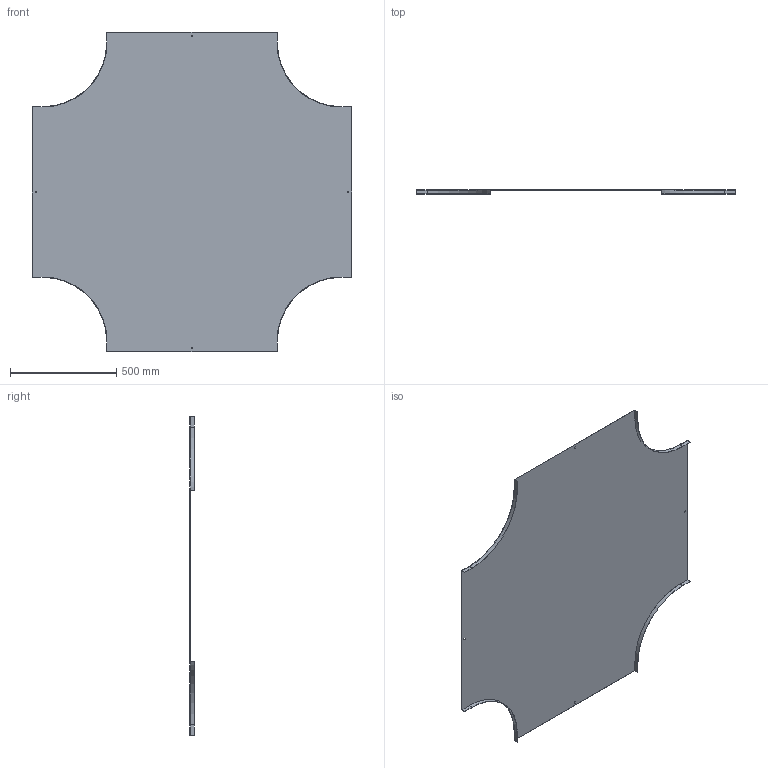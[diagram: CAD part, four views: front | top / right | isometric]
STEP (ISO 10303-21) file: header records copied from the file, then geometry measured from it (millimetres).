
FILE_DESCRIPTION (( 'STEP AP214' ), '1' );
FILE_NAME ('B2_17N3R800.step', '2025-02-21T12:09:01', ( '' ), ( '' ), 'SwSTEP 2.0', 'SolidWorks 2023', '' );
FILE_SCHEMA (( 'AUTOMOTIVE_DESIGN' ));
Length unit declared in the file: millimetre
Products named in the file (1): B2_17N3R800
Bounding box: 1500 x 20 x 1500 mm (x, y, z)
Volume: 2823941.3 mm3; surface area: 3773894.3 mm2
Topology: 1 solids, 1 shells, 50 faces, 144 edges, 96 vertices
Faces by surface type: plane 42, cylinder 8
Entity records: 1663 total; most frequent: CARTESIAN_POINT 291, ORIENTED_EDGE 288, DIRECTION 262, EDGE_CURVE 144, VECTOR 128, LINE 128, VERTEX_POINT 96, AXIS2_PLACEMENT_3D 67
